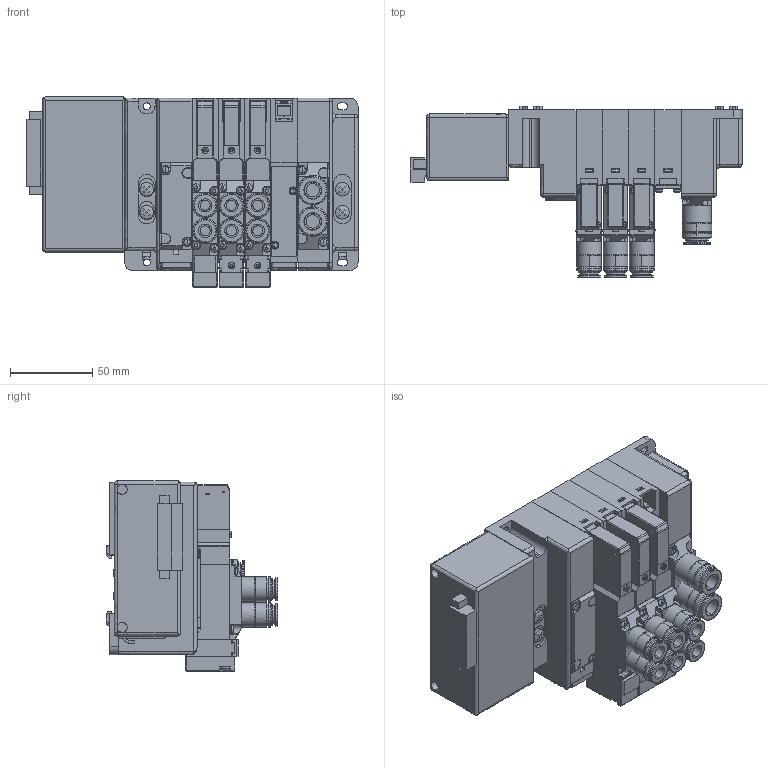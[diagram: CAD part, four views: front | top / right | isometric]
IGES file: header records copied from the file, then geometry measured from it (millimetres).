
Start section: ------------------------------------------------------------------------
Global section: file name: D:\ICADMX\tmp\trans3d_spg\CVICAD02.5220.F15M4XS-JR-B1-DN_17148.igs; native system: spGate; preprocessor: ver12.6.6; author: Unknown; organization: Unknown; date: 210712.185051; units: millimetre
Bounding box: 202 x 104.2 x 115.69 mm (x, y, z)
Volume: 987907.7 mm3; surface area: 224881.5 mm2
Topology: 37 solids, 37 shells, 3391 faces, 8800 edges, 5658 vertices
Faces by surface type: bspline 3391
